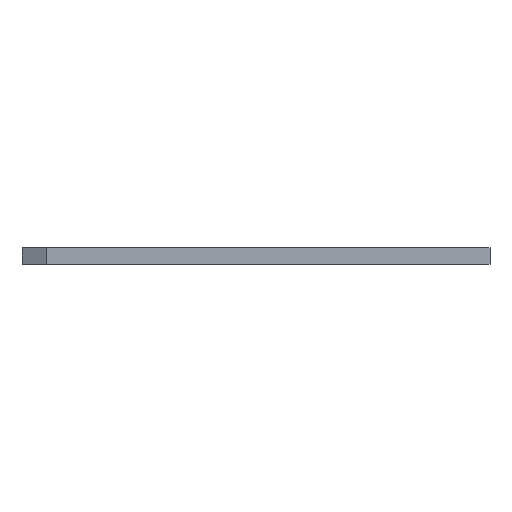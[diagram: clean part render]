
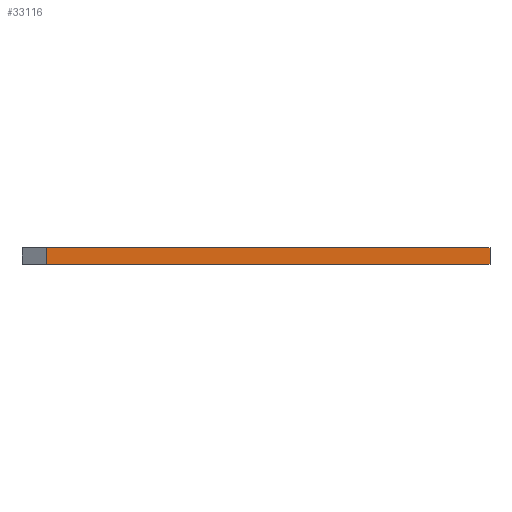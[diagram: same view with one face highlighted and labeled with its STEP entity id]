
A CAD part, left-side view. The second image highlights one B-rep face of the part: STEP entity #33116.
In plain terms, the highlighted planar face has unit normal (-1, 0, 0).
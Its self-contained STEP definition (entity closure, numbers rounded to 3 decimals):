
#204=FACE_OUTER_BOUND('',#2287,.T.);
#2287=EDGE_LOOP('',(#21598,#21599,#21600,#21601));
#4633=LINE('',#46418,#9394);
#4634=LINE('',#46421,#9395);
#4635=LINE('',#46423,#9396);
#4636=LINE('',#46424,#9397);
#9394=VECTOR('',#37405,10.);
#9395=VECTOR('',#37408,10.);
#9396=VECTOR('',#37409,10.);
#9397=VECTOR('',#37410,10.);
#14153=VERTEX_POINT('',#46414);
#14154=VERTEX_POINT('',#46416);
#14155=VERTEX_POINT('',#46420);
#14156=VERTEX_POINT('',#46422);
#16835=EDGE_CURVE('',#14153,#14154,#4633,.T.);
#16836=EDGE_CURVE('',#14153,#14155,#4634,.T.);
#16837=EDGE_CURVE('',#14156,#14154,#4635,.T.);
#16838=EDGE_CURVE('',#14155,#14156,#4636,.T.);
#21598=ORIENTED_EDGE('',*,*,#16836,.F.);
#21599=ORIENTED_EDGE('',*,*,#16835,.T.);
#21600=ORIENTED_EDGE('',*,*,#16837,.F.);
#21601=ORIENTED_EDGE('',*,*,#16838,.F.);
#31033=PLANE('',#35213);
#33116=ADVANCED_FACE('',(#204),#31033,.T.);
#35213=AXIS2_PLACEMENT_3D('',#46419,#37406,#37407);
#37405=DIRECTION('',(0.,0.,-1.));
#37406=DIRECTION('center_axis',(-1.,0.,0.));
#37407=DIRECTION('ref_axis',(0.,1.,0.));
#37408=DIRECTION('',(0.,-1.,0.));
#37409=DIRECTION('',(0.,1.,0.));
#37410=DIRECTION('',(0.,0.,-1.));
#46414=CARTESIAN_POINT('',(-294.931,94.4,8.));
#46416=CARTESIAN_POINT('',(-294.931,94.4,0.));
#46418=CARTESIAN_POINT('',(-294.931,94.4,8.));
#46419=CARTESIAN_POINT('Origin',(-294.931,-118.,8.));
#46420=CARTESIAN_POINT('',(-294.931,-118.,8.));
#46421=CARTESIAN_POINT('',(-294.931,94.4,8.));
#46422=CARTESIAN_POINT('',(-294.931,-118.,0.));
#46423=CARTESIAN_POINT('',(-294.931,94.4,0.));
#46424=CARTESIAN_POINT('',(-294.931,-118.,8.));
